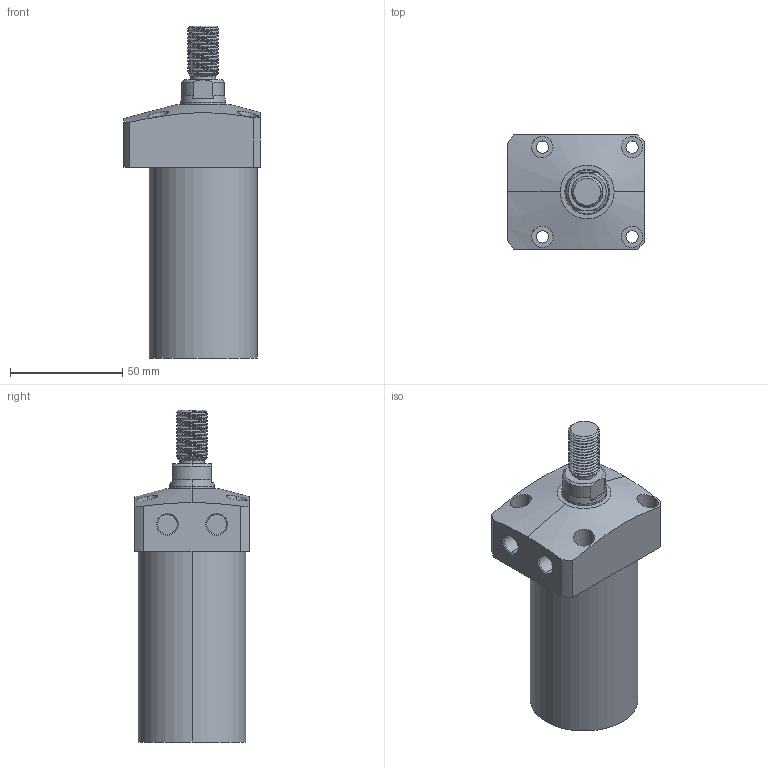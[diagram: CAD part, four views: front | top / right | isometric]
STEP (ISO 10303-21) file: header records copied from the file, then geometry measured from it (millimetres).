
FILE_DESCRIPTION (( 'STEP AP203' ), '1' );
FILE_NAME ('CLL-048CT-075.STEP', '2020-01-10T01:17:20', ( '' ), ( '' ), 'SwSTEP 2.0', 'SolidWorks 2015', '' );
FILE_SCHEMA (( 'CONFIG_CONTROL_DESIGN' ));
Length unit declared in the file: millimetre
Products named in the file (1): CLL-048CT-075
Bounding box: 61 x 51 x 148 mm (x, y, z)
Volume: 232835.6 mm3; surface area: 28796.3 mm2
Topology: 1 solids, 1 shells, 105 faces, 262 edges, 170 vertices
Faces by surface type: cylinder 63, plane 24, cone 16, bspline 2
Entity records: 5142 total; most frequent: CARTESIAN_POINT 2698, ORIENTED_EDGE 524, DIRECTION 464, EDGE_CURVE 262, AXIS2_PLACEMENT_3D 184, VERTEX_POINT 170, EDGE_LOOP 124, FACE_OUTER_BOUND 105
